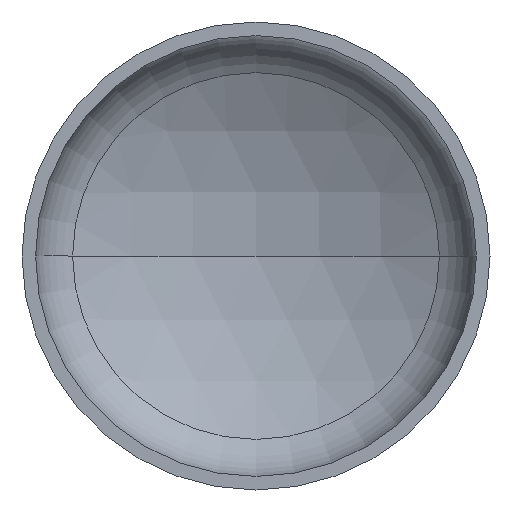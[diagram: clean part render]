
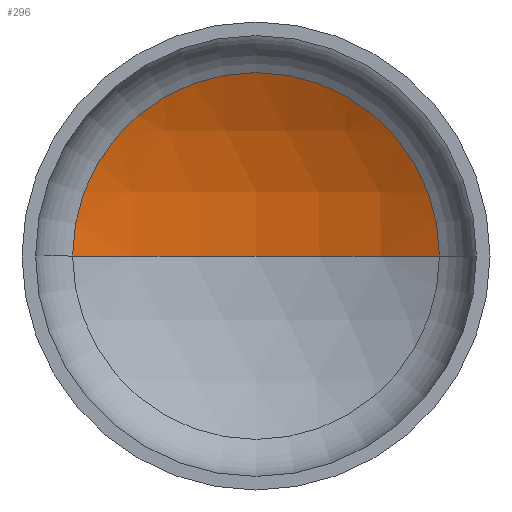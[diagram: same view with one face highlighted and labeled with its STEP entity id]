
A CAD part, front view. The second image highlights one B-rep face of the part: STEP entity #296.
In plain terms, the highlighted spherical face has radius 1600 mm.
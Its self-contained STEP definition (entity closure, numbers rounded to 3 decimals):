
#13 = VERTEX_POINT ( 'NONE', #279 ) ;
#26 = ORIENTED_EDGE ( 'NONE', *, *, #174, .T. ) ;
#33 = CIRCLE ( 'NONE', #82, 1600. ) ;
#34 = ORIENTED_EDGE ( 'NONE', *, *, #175, .T. ) ;
#49 = AXIS2_PLACEMENT_3D ( 'NONE', #183, #307, #211 ) ;
#55 = VERTEX_POINT ( 'NONE', #79 ) ;
#63 = ORIENTED_EDGE ( 'NONE', *, *, #179, .F. ) ;
#79 = CARTESIAN_POINT ( 'NONE',  ( 783.876, 390.247, 0. ) ) ;
#82 = AXIS2_PLACEMENT_3D ( 'NONE', #102, #304, #150 ) ;
#95 = EDGE_LOOP ( 'NONE', ( #63, #34, #26 ) ) ;
#100 = AXIS2_PLACEMENT_3D ( 'NONE', #148, #325, #177 ) ;
#101 = VERTEX_POINT ( 'NONE', #225 ) ;
#102 = CARTESIAN_POINT ( 'NONE',  ( 0., -1004.578, 0. ) ) ;
#110 = AXIS2_PLACEMENT_3D ( 'NONE', #256, #409, #285 ) ;
#148 = CARTESIAN_POINT ( 'NONE',  ( 0., -1004.578, 0. ) ) ;
#150 = DIRECTION ( 'NONE',  ( 1., 0., 0. ) ) ;
#174 = EDGE_CURVE ( 'NONE', #55, #101, #252, .T. ) ;
#175 = EDGE_CURVE ( 'NONE', #13, #55, #180, .T. ) ;
#177 = DIRECTION ( 'NONE',  ( -1., 0., 0. ) ) ;
#179 = EDGE_CURVE ( 'NONE', #13, #101, #33, .T. ) ;
#180 = CIRCLE ( 'NONE', #100, 1600. ) ;
#183 = CARTESIAN_POINT ( 'NONE',  ( 0., -1004.578, 0. ) ) ;
#211 = DIRECTION ( 'NONE',  ( -1., 0., 0. ) ) ;
#225 = CARTESIAN_POINT ( 'NONE',  ( -783.876, 390.247, 0. ) ) ;
#252 = CIRCLE ( 'NONE', #110, 783.876 ) ;
#256 = CARTESIAN_POINT ( 'NONE',  ( 0., 390.247, 0. ) ) ;
#279 = CARTESIAN_POINT ( 'NONE',  ( 0., 595.422, 0. ) ) ;
#285 = DIRECTION ( 'NONE',  ( 1., 0., 0. ) ) ;
#295 = SPHERICAL_SURFACE ( 'NONE', #49, 1600. ) ;
#296 = ADVANCED_FACE ( 'NONE', ( #300 ), #295, .F. ) ;
#300 = FACE_OUTER_BOUND ( 'NONE', #95, .T. ) ;
#304 = DIRECTION ( 'NONE',  ( 0., 0., 1. ) ) ;
#307 = DIRECTION ( 'NONE',  ( 0., 0., -1. ) ) ;
#325 = DIRECTION ( 'NONE',  ( 0., 0., -1. ) ) ;
#409 = DIRECTION ( 'NONE',  ( 0., -1., 0. ) ) ;
